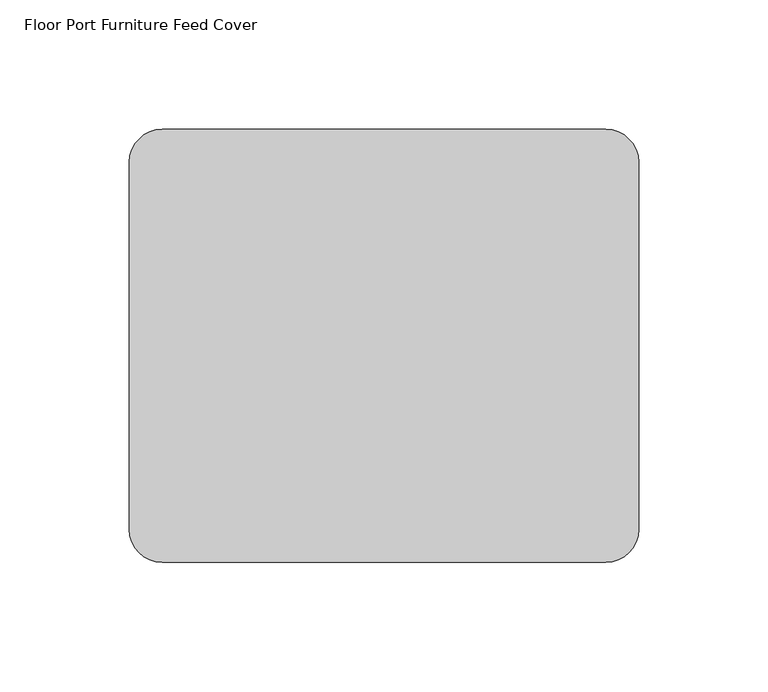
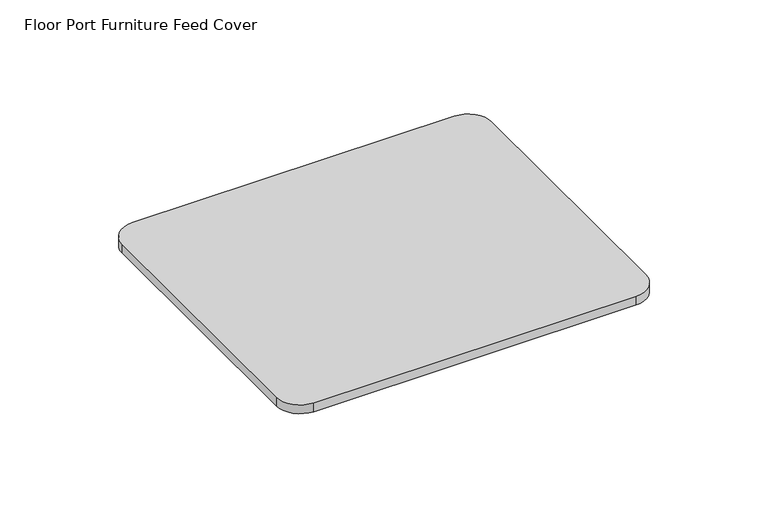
"""IFC4 building model written with IfcOpenShell, lengths in millimetres: proxy geometry, Floor Port Furniture Feed Cover : Flangeless, Aluminum."""

from ifc_helpers import new_model, si_unit, point, frame_2d, origin, origin_with_axes, place, context, project, spatial, polyline, circle_curve, trimmed, segment, composite_curve, outline, extrude, source, transform, mapped, element, save


def floor_port_furniture_feed_cover_acef65ba(model_context):
    return source(origin(), model_context, "Body", "SweptSolid", [
        extrude(outline(composite_curve([segment(trimmed(circle_curve(frame_2d((85.6996, -70.9485664)), 12.7254), [point((98.425, -70.9485664))], [point((85.6996, -83.6739664))], False, "CARTESIAN"), True, "CONTINUOUS"), segment(polyline([(85.6996, -83.6739664), (-85.6996, -83.6739664)]), True, "CONTINUOUS"), segment(trimmed(circle_curve(frame_2d((-85.6996, -70.9485664)), 12.7254), [point((-85.6996, -83.6739664))], [point((-98.425, -70.9485664))], False, "CARTESIAN"), True, "CONTINUOUS"), segment(polyline([(-98.425, -70.9485664), (-98.425, 70.9485664)]), True, "CONTINUOUS"), segment(trimmed(circle_curve(frame_2d((-85.6996, 70.9485664)), 12.7254), [point((-98.425, 70.9485664))], [point((-85.6996, 83.6739664))], False, "CARTESIAN"), True, "CONTINUOUS"), segment(polyline([(-85.6996, 83.6739664), (85.6996, 83.6739664)]), True, "CONTINUOUS"), segment(trimmed(circle_curve(frame_2d((85.6996, 70.9485664)), 12.7254), [point((85.6996, 83.6739664))], [point((98.425, 70.9485664))], False, "CARTESIAN"), True, "CONTINUOUS"), segment(polyline([(98.425, 70.9485664), (98.425, -70.9485664)]), True, "CONTINUOUS")], self_intersect=False)), origin_with_axes(), (0.0, 0.0, 1.0), 4.953),
    ])


if __name__ == "__main__":
    model = new_model("IFC4")
    model_context = context("Model", 3, world=origin())
    ifc_project = project(units=[si_unit("LENGTHUNIT", "METRE", prefix="MILLI")], contexts=[model_context])
    site = spatial("IfcSite", under=ifc_project)
    building = spatial("IfcBuilding", under=site)
    placement = place(None, origin())
    floor_port_furniture_feed_cover_shape = floor_port_furniture_feed_cover_acef65ba(model_context)
    element("IfcBuildingElementProxy", 1, Name="Floor Port Furniture Feed Cover : Flangeless, Aluminum", ObjectType="Floor Port Furniture Feed Cover : Flangeless, Aluminum", at=placement, inside=building, context=model_context, shape_type="MappedRepresentation", body=[
        mapped(floor_port_furniture_feed_cover_shape, transform((0.0, 0.0, 0.0), x_axis=(1.0, 0.0, 0.0), y_axis=(0.0, 1.0, 0.0), z_axis=(0.0, 0.0, 1.0))),
    ])
    save(model, "model.ifc")
